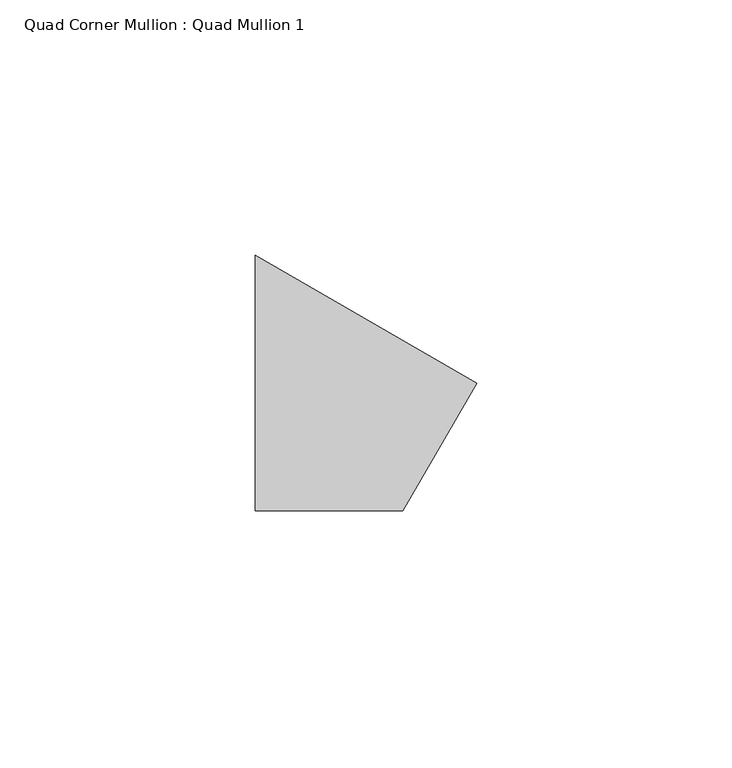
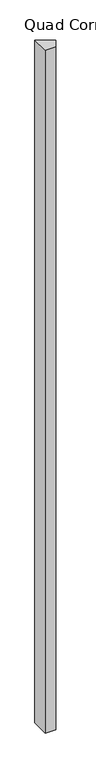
"""IFC4 building model written with IfcOpenShell, lengths in millimetres: member geometry, Quad Corner Mullion : Quad Mullion 1."""

from ifc_helpers import new_model, si_unit, frame, origin, place, context, project, spatial, polyline, outline, extrude, source, transform, mapped, element, save


def quad_corner_mullion_quad_mullion_1_15aca46c(model_context):
    return source(origin(), model_context, "Body", "SweptSolid", [
        extrude(outline(polyline([(28.8675135, 0.0), (14.4337567, -25.0), (-14.4337567, -25.0), (-14.4337567, 25.0), (28.8675135, 0.0)])), frame((0.0, 0.0, -2017.8953692), z_axis=(0.0, 0.0, 1.0), x_axis=(1.0, 0.0, 0.0)), (0.0, 0.0, 1.0), 2017.8953692),
    ])


if __name__ == "__main__":
    model = new_model("IFC4")
    model_context = context("Model", 3, world=origin())
    ifc_project = project(units=[si_unit("LENGTHUNIT", "METRE", prefix="MILLI")], contexts=[model_context])
    site = spatial("IfcSite", under=ifc_project)
    building = spatial("IfcBuilding", under=site)
    placement = place(None, origin())
    quad_corner_mullion_quad_mullion_1_shape = quad_corner_mullion_quad_mullion_1_15aca46c(model_context)
    element("IfcMember", 1, ObjectType="Quad Corner Mullion : Quad Mullion 1", at=placement, inside=building, context=model_context, shape_type="MappedRepresentation", body=[
        mapped(quad_corner_mullion_quad_mullion_1_shape, transform((0.0, 0.0, 0.0), x_axis=(1.0, 0.0, 0.0), y_axis=(0.0, 1.0, 0.0), z_axis=(0.0, 0.0, 1.0))),
    ])
    save(model, "model.ifc")
